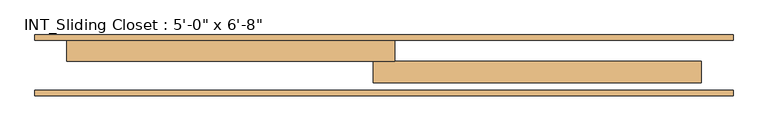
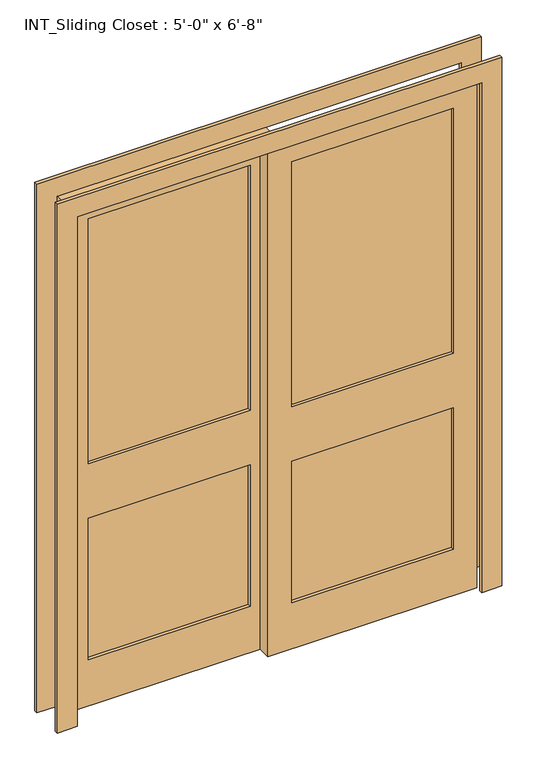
"""IFC4 building model written with IfcOpenShell, lengths in millimetres: door geometry."""

from ifc_helpers import new_model, si_unit, frame, origin, place, context, project, spatial, polyline, outline, extrude, source, transform, mapped, element, save


def door_adb7d28e(model_context):
    return source(origin(), model_context, "Body", "SweptSolid", [
        extrude(outline(polyline([(-63.5, 149.225), (-673.1, 149.225), (-673.1, 174.625), (-63.5, 174.625), (-63.5, 149.225)])), frame((0.0, 0.0, 965.2), z_axis=(0.0, 0.0, 1.0), x_axis=(1.0, 0.0, 0.0)), (0.0, 0.0, 1.0), 977.9),
        extrude(outline(polyline([(-63.5, 149.225), (-673.1, 149.225), (-673.1, 174.625), (-63.5, 174.625), (-63.5, 149.225)])), frame((0.0, 0.0, 184.15), z_axis=(0.0, 0.0, 1.0), x_axis=(1.0, 0.0, 0.0)), (0.0, 0.0, 1.0), 565.15),
        extrude(outline(polyline([(63.5, 123.825), (673.1, 123.825), (673.1, 98.425), (63.5, 98.425), (63.5, 123.825)])), frame((0.0, 0.0, 965.2), z_axis=(0.0, 0.0, 1.0), x_axis=(1.0, 0.0, 0.0)), (0.0, 0.0, 1.0), 977.9),
        extrude(outline(polyline([(63.5, 123.825), (673.1, 123.825), (673.1, 98.425), (63.5, 98.425), (63.5, 123.825)])), frame((0.0, 0.0, 184.15), z_axis=(0.0, 0.0, 1.0), x_axis=(1.0, 0.0, 0.0)), (0.0, 0.0, 1.0), 565.15),
        extrude(outline(polyline([(2032.0, 25.4), (2032.0, -762.0), (0.0, -762.0), (0.0, 25.4), (2032.0, 25.4)]), holes=[polyline([(184.15, -673.1), (749.3, -673.1), (749.3, -63.5), (184.15, -63.5), (184.15, -673.1)]), polyline([(965.2, -673.1), (1943.1, -673.1), (1943.1, -63.5), (965.2, -63.5), (965.2, -673.1)])]), frame((0.0, 136.525, 0.0), z_axis=(0.0, 1.0, 0.0), x_axis=(0.0, 0.0, 1.0)), (0.0, 0.0, 1.0), 50.8),
        extrude(outline(polyline([(0.0, -838.2), (0.0, -762.0), (2032.0, -762.0), (2032.0, 762.0), (0.0, 762.0), (0.0, 838.2), (2108.2, 838.2), (2108.2, -838.2), (0.0, -838.2)])), frame((0.0, 53.975, 0.0), z_axis=(0.0, 1.0, 0.0), x_axis=(0.0, 0.0, 1.0)), (0.0, 0.0, 1.0), 12.7),
        extrude(outline(polyline([(0.0, 838.2), (2108.2, 838.2), (2108.2, -838.2), (0.0, -838.2), (0.0, -762.0), (2032.0, -762.0), (2032.0, 762.0), (0.0, 762.0), (0.0, 838.2)])), frame((0.0, 187.325, 0.0), z_axis=(0.0, 1.0, 0.0), x_axis=(0.0, 0.0, 1.0)), (0.0, 0.0, 1.0), 12.7),
        extrude(outline(polyline([(2032.0, -25.4), (0.0, -25.4), (0.0, 762.0), (2032.0, 762.0), (2032.0, -25.4)]), holes=[polyline([(965.2, 673.1), (965.2, 63.5), (1943.1, 63.5), (1943.1, 673.1), (965.2, 673.1)]), polyline([(184.15, 673.1), (184.15, 63.5), (749.3, 63.5), (749.3, 673.1), (184.15, 673.1)])]), frame((0.0, 85.725, 0.0), z_axis=(0.0, 1.0, 0.0), x_axis=(0.0, 0.0, 1.0)), (0.0, 0.0, 1.0), 50.8),
    ])


if __name__ == "__main__":
    model = new_model("IFC4")
    model_context = context("Model", 3, world=origin())
    ifc_project = project(units=[si_unit("LENGTHUNIT", "METRE", prefix="MILLI")], contexts=[model_context])
    site = spatial("IfcSite", under=ifc_project)
    building = spatial("IfcBuilding", under=site)
    placement = place(None, origin())
    door_shape = door_adb7d28e(model_context)
    element("IfcDoor", 1, ObjectType="INT_Sliding Closet : 5'-0\" x 6'-8\"", at=placement, inside=building, context=model_context, shape_type="MappedRepresentation", body=[
        mapped(door_shape, transform((0.0, 0.0, 0.0), x_axis=(1.0, 0.0, 0.0), y_axis=(0.0, 1.0, 0.0), z_axis=(0.0, 0.0, 1.0))),
    ])
    save(model, "model.ifc")
